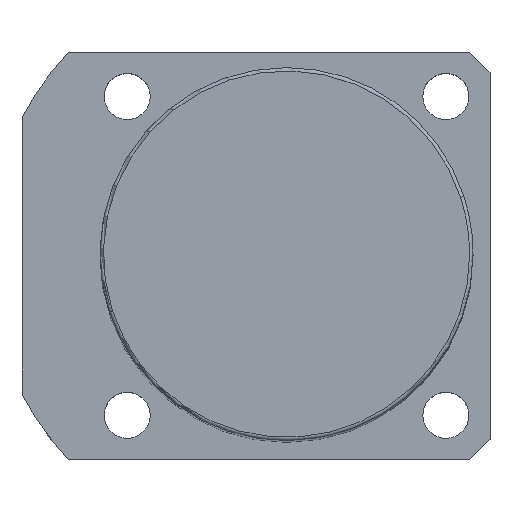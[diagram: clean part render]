
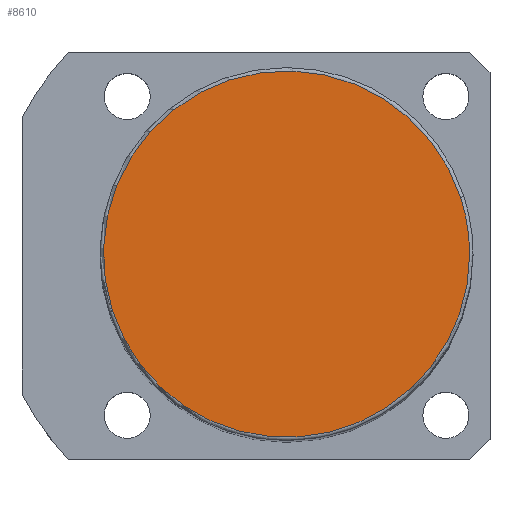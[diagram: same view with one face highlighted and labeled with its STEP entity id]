
A CAD part, top view. The second image highlights one B-rep face of the part: STEP entity #8610.
In plain terms, the highlighted planar face has unit normal (0, 0, 1).
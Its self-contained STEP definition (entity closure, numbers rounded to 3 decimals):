
#8543=CARTESIAN_POINT('',(25.679,8.343,161.0));
#8544=VERTEX_POINT('',#8543);
#8562=CARTESIAN_POINT('',(-25.679,-8.343,161.0));
#8563=VERTEX_POINT('',#8562);
#8571=CARTESIAN_POINT('',(0.0,0.0,161.0));
#8572=DIRECTION('',(0.0,0.0,1.0));
#8573=DIRECTION('',(1.0,0.0,0.0));
#8574=AXIS2_PLACEMENT_3D('',#8571,#8572,#8573);
#8575=CIRCLE('',#8574,27.0);
#8576=EDGE_CURVE('no 4568',#8544,#8563,#8575,.T.);
#8586=CARTESIAN_POINT('',(27.0,0.0,161.0));
#8587=VERTEX_POINT('',#8586);
#8588=CARTESIAN_POINT('',(0.0,0.0,161.0));
#8589=DIRECTION('',(0.0,0.0,1.0));
#8590=DIRECTION('',(1.0,0.0,0.0));
#8591=AXIS2_PLACEMENT_3D('',#8588,#8589,#8590);
#8592=CIRCLE('',#8591,27.0);
#8593=EDGE_CURVE('no 4577',#8587,#8544,#8592,.T.);
#8594=ORIENTED_EDGE('',*,*,#8593,.T.);
#8595=ORIENTED_EDGE('',*,*,#8576,.T.);
#8596=CARTESIAN_POINT('',(0.0,0.0,161.0));
#8597=DIRECTION('',(0.0,0.0,1.0));
#8598=DIRECTION('',(1.0,0.0,0.0));
#8599=AXIS2_PLACEMENT_3D('',#8596,#8597,#8598);
#8600=CIRCLE('',#8599,27.0);
#8601=EDGE_CURVE('no 4583',#8563,#8587,#8600,.T.);
#8602=ORIENTED_EDGE('',*,*,#8601,.T.);
#8603=EDGE_LOOP('',(#8594,#8595,#8602));
#8604=FACE_OUTER_BOUND('',#8603,.T.);
#8605=CARTESIAN_POINT('',(0.0,0.0,161.0));
#8606=DIRECTION('',(0.0,0.0,1.0));
#8607=DIRECTION('',(1.0,0.0,0.0));
#8608=AXIS2_PLACEMENT_3D('',#8605,#8606,#8607);
#8609=PLANE('',#8608);
#8610=ADVANCED_FACE('no 4570',(#8604),#8609,.T.);
